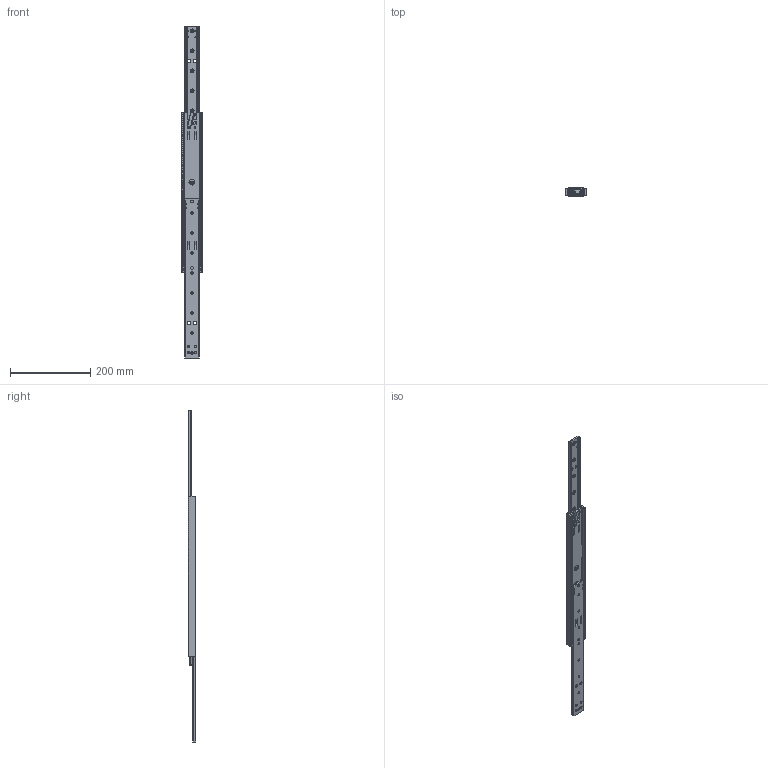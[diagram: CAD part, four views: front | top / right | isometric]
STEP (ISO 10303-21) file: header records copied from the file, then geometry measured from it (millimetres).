
FILE_DESCRIPTION (( 'STEP AP203' ), '1' );
FILE_NAME ('61_12285_06-open.STEP', '2022-03-25T09:51:19', ( '' ), ( '' ), 'SwSTEP 2.0', 'SolidWorks 2021', '' );
FILE_SCHEMA (( 'CONFIG_CONTROL_DESIGN' ));
Length unit declared in the file: millimetre
Products named in the file (12): 61_12280_06_Beam Assembled - Stop Raises ; 61_12282; 61_12278_08; 301_000_008_Fitted; 61_12279_06; 61_12274; 61_13331_Pin Fitted; 370_002_070; 61_12285_06-open; 61_12719; 61_12275; 400_000_004
Assembly tree (28 placements, depth 2):
  61_12285_06-open
    61_12279_06
    61_12280_06_Beam Assembled - Stop Raises   x2
    61_13331_Pin Fitted  x4
    61_12282
    301_000_008_Fitted  x2
    61_12275
    61_12274
    370_002_070  x2
    61_12719  x2
    400_000_004  x8
    61_12278_08  x4
Bounding box: 50.7 x 19.75 x 830 mm (x, y, z)
Volume: 231781.1 mm3; surface area: 161645 mm2
Topology: 28 solids, 28 shells, 1180 faces, 3216 edges, 1995 vertices
Faces by surface type: cylinder 556, plane 285, sphere 121, torus 93, cone 80, bspline 45
Entity records: 27315 total; most frequent: CARTESIAN_POINT 6681, DIRECTION 4136, ORIENTED_EDGE 3922, EDGE_CURVE 1961, AXIS2_PLACEMENT_3D 1642, VERTEX_POINT 1208, EDGE_LOOP 887, CIRCLE 880
